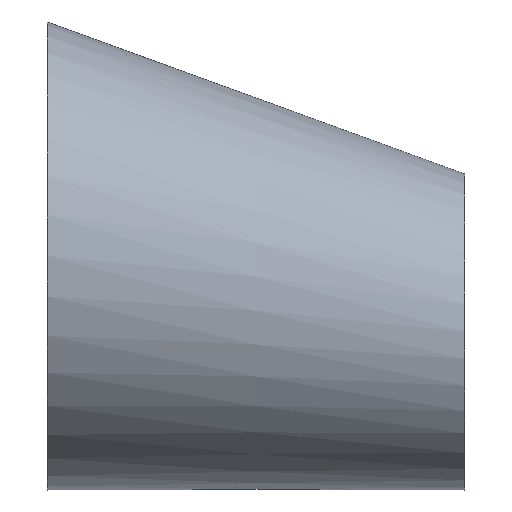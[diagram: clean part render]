
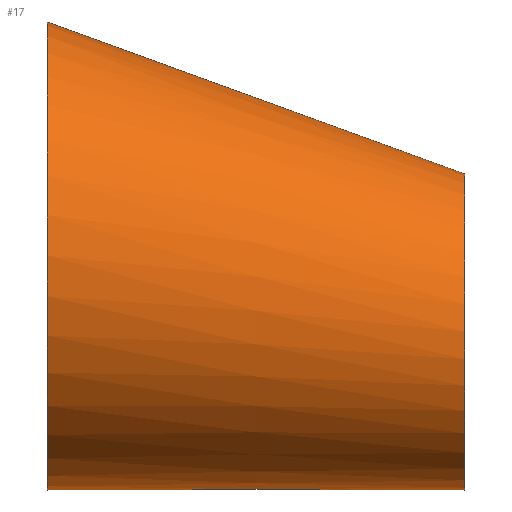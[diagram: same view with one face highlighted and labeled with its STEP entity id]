
A CAD part, top view. The second image highlights one B-rep face of the part: STEP entity #17.
In plain terms, the highlighted free-form (B-spline) face has degree [11, 1] with [22, 2] control points.
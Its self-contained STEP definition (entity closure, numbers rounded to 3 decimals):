
#17 = ADVANCED_FACE('',(#18),#31,.T.);
#18 = FACE_BOUND('',#19,.T.);
#19 = EDGE_LOOP('',(#20,#94,#116,#143));
#20 = ORIENTED_EDGE('',*,*,#21,.T.);
#21 = EDGE_CURVE('',#22,#22,#24,.T.);
#22 = VERTEX_POINT('',#23);
#23 = CARTESIAN_POINT('',(0.,77.,0.));
#24 = SURFACE_CURVE('',#25,(#30,#82),.PCURVE_S1.);
#25 = CIRCLE('',#26,77.);
#26 = AXIS2_PLACEMENT_3D('',#27,#28,#29);
#27 = CARTESIAN_POINT('',(0.,0.,0.));
#28 = DIRECTION('',(1.,0.,0.));
#29 = DIRECTION('',(0.,1.,0.));
#30 = PCURVE('',#31,#76);
#31 = B_SPLINE_SURFACE_WITH_KNOTS('',11,1,(
    (#32,#33)
    ,(#34,#35)
    ,(#36,#37)
    ,(#38,#39)
    ,(#40,#41)
    ,(#42,#43)
    ,(#44,#45)
    ,(#46,#47)
    ,(#48,#49)
    ,(#50,#51)
    ,(#52,#53)
    ,(#54,#55)
    ,(#56,#57)
    ,(#58,#59)
    ,(#60,#61)
    ,(#62,#63)
    ,(#64,#65)
    ,(#66,#67)
    ,(#68,#69)
    ,(#70,#71)
    ,(#72,#73)
    ,(#74,#75
    )),.UNSPECIFIED.,.T.,.F.,.F.,(12,10,12),(2,2),(0.,3.142,
    6.283),(0.,1.),.UNSPECIFIED.);
#32 = CARTESIAN_POINT('',(0.,77.,0.));
#33 = CARTESIAN_POINT('',(137.5,27.,0.));
#34 = CARTESIAN_POINT('',(0.,77.,21.991));
#35 = CARTESIAN_POINT('',(137.5,27.,
    14.851));
#36 = CARTESIAN_POINT('',(0.,70.091,43.982));
#37 = CARTESIAN_POINT('',(137.5,22.334,
    29.702));
#38 = CARTESIAN_POINT('',(0.,56.274,63.562));
#39 = CARTESIAN_POINT('',(137.5,13.003,
    42.925));
#40 = CARTESIAN_POINT('',(0.,36.495,78.318));
#41 = CARTESIAN_POINT('',(137.5,-0.354,
    52.89));
#42 = CARTESIAN_POINT('',(0.,12.648,86.265));
#43 = CARTESIAN_POINT('',(137.5,-16.459,
    58.257));
#44 = CARTESIAN_POINT('',(0.,-12.648,86.265));
#45 = CARTESIAN_POINT('',(137.5,-33.541,58.257
    ));
#46 = CARTESIAN_POINT('',(0.,-36.495,78.318));
#47 = CARTESIAN_POINT('',(137.5,-49.646,
    52.89));
#48 = CARTESIAN_POINT('',(0.,-56.274,63.562));
#49 = CARTESIAN_POINT('',(137.5,-63.003,42.925));
#50 = CARTESIAN_POINT('',(0.,-70.091,43.982));
#51 = CARTESIAN_POINT('',(137.5,-72.334,29.702
    ));
#52 = CARTESIAN_POINT('',(0.,-77.,21.991));
#53 = CARTESIAN_POINT('',(137.5,-77.,14.851));
#54 = CARTESIAN_POINT('',(0.,-77.,-21.991));
#55 = CARTESIAN_POINT('',(137.5,-77.,-14.851));
#56 = CARTESIAN_POINT('',(0.,-70.091,-43.982));
#57 = CARTESIAN_POINT('',(137.5,-72.334,-29.702
    ));
#58 = CARTESIAN_POINT('',(0.,-56.274,-63.562));
#59 = CARTESIAN_POINT('',(137.5,-63.003,-42.925
    ));
#60 = CARTESIAN_POINT('',(0.,-36.495,-78.318));
#61 = CARTESIAN_POINT('',(137.5,-49.646,
    -52.89));
#62 = CARTESIAN_POINT('',(0.,-12.648,-86.265));
#63 = CARTESIAN_POINT('',(137.5,-33.541,-58.257
    ));
#64 = CARTESIAN_POINT('',(0.,12.648,-86.265));
#65 = CARTESIAN_POINT('',(137.5,-16.459,
    -58.257));
#66 = CARTESIAN_POINT('',(0.,36.495,-78.318));
#67 = CARTESIAN_POINT('',(137.5,-0.354,-52.89));
#68 = CARTESIAN_POINT('',(0.,56.274,-63.562));
#69 = CARTESIAN_POINT('',(137.5,13.003,-42.925));
#70 = CARTESIAN_POINT('',(0.,70.091,-43.982));
#71 = CARTESIAN_POINT('',(137.5,22.334,
    -29.702));
#72 = CARTESIAN_POINT('',(0.,77.,-21.991));
#73 = CARTESIAN_POINT('',(137.5,27.,-14.851));
#74 = CARTESIAN_POINT('',(0.,77.,0.));
#75 = CARTESIAN_POINT('',(137.5,27.,0.));
#76 = DEFINITIONAL_REPRESENTATION('',(#77),#81);
#77 = LINE('',#78,#79);
#78 = CARTESIAN_POINT('',(0.,0.));
#79 = VECTOR('',#80,1.);
#80 = DIRECTION('',(1.,0.));
#81 = ( GEOMETRIC_REPRESENTATION_CONTEXT(2) 
PARAMETRIC_REPRESENTATION_CONTEXT() REPRESENTATION_CONTEXT('2D SPACE',''
  ) );
#82 = PCURVE('',#83,#88);
#83 = PLANE('',#84);
#84 = AXIS2_PLACEMENT_3D('',#85,#86,#87);
#85 = CARTESIAN_POINT('',(0.,0.,0.));
#86 = DIRECTION('',(1.,0.,0.));
#87 = DIRECTION('',(0.,1.,0.));
#88 = DEFINITIONAL_REPRESENTATION('',(#89),#93);
#89 = CIRCLE('',#90,77.);
#90 = AXIS2_PLACEMENT_2D('',#91,#92);
#91 = CARTESIAN_POINT('',(0.,0.));
#92 = DIRECTION('',(1.,0.));
#93 = ( GEOMETRIC_REPRESENTATION_CONTEXT(2) 
PARAMETRIC_REPRESENTATION_CONTEXT() REPRESENTATION_CONTEXT('2D SPACE',''
  ) );
#94 = ORIENTED_EDGE('',*,*,#95,.T.);
#95 = EDGE_CURVE('',#22,#96,#98,.T.);
#96 = VERTEX_POINT('',#97);
#97 = CARTESIAN_POINT('',(137.5,27.,0.));
#98 = SEAM_CURVE('',#99,(#102,#109),.PCURVE_S1.);
#99 = B_SPLINE_CURVE_WITH_KNOTS('',1,(#100,#101),.UNSPECIFIED.,.F.,.F.,(
    2,2),(0.,1.),.PIECEWISE_BEZIER_KNOTS.);
#100 = CARTESIAN_POINT('',(0.,77.,0.));
#101 = CARTESIAN_POINT('',(137.5,27.,0.));
#102 = PCURVE('',#31,#103);
#103 = DEFINITIONAL_REPRESENTATION('',(#104),#108);
#104 = LINE('',#105,#106);
#105 = CARTESIAN_POINT('',(6.283,0.));
#106 = VECTOR('',#107,1.);
#107 = DIRECTION('',(0.,1.));
#108 = ( GEOMETRIC_REPRESENTATION_CONTEXT(2) 
PARAMETRIC_REPRESENTATION_CONTEXT() REPRESENTATION_CONTEXT('2D SPACE',''
  ) );
#109 = PCURVE('',#31,#110);
#110 = DEFINITIONAL_REPRESENTATION('',(#111),#115);
#111 = LINE('',#112,#113);
#112 = CARTESIAN_POINT('',(0.,0.));
#113 = VECTOR('',#114,1.);
#114 = DIRECTION('',(0.,1.));
#115 = ( GEOMETRIC_REPRESENTATION_CONTEXT(2) 
PARAMETRIC_REPRESENTATION_CONTEXT() REPRESENTATION_CONTEXT('2D SPACE',''
  ) );
#116 = ORIENTED_EDGE('',*,*,#117,.F.);
#117 = EDGE_CURVE('',#96,#96,#118,.T.);
#118 = SURFACE_CURVE('',#119,(#124,#131),.PCURVE_S1.);
#119 = CIRCLE('',#120,52.);
#120 = AXIS2_PLACEMENT_3D('',#121,#122,#123);
#121 = CARTESIAN_POINT('',(137.5,-25.,0.));
#122 = DIRECTION('',(1.,0.,0.));
#123 = DIRECTION('',(0.,1.,0.));
#124 = PCURVE('',#31,#125);
#125 = DEFINITIONAL_REPRESENTATION('',(#126),#130);
#126 = LINE('',#127,#128);
#127 = CARTESIAN_POINT('',(0.,1.));
#128 = VECTOR('',#129,1.);
#129 = DIRECTION('',(1.,0.));
#130 = ( GEOMETRIC_REPRESENTATION_CONTEXT(2) 
PARAMETRIC_REPRESENTATION_CONTEXT() REPRESENTATION_CONTEXT('2D SPACE',''
  ) );
#131 = PCURVE('',#132,#137);
#132 = PLANE('',#133);
#133 = AXIS2_PLACEMENT_3D('',#134,#135,#136);
#134 = CARTESIAN_POINT('',(137.5,-25.,0.));
#135 = DIRECTION('',(1.,0.,0.));
#136 = DIRECTION('',(0.,1.,0.));
#137 = DEFINITIONAL_REPRESENTATION('',(#138),#142);
#138 = CIRCLE('',#139,52.);
#139 = AXIS2_PLACEMENT_2D('',#140,#141);
#140 = CARTESIAN_POINT('',(0.,0.));
#141 = DIRECTION('',(1.,0.));
#142 = ( GEOMETRIC_REPRESENTATION_CONTEXT(2) 
PARAMETRIC_REPRESENTATION_CONTEXT() REPRESENTATION_CONTEXT('2D SPACE',''
  ) );
#143 = ORIENTED_EDGE('',*,*,#95,.F.);
